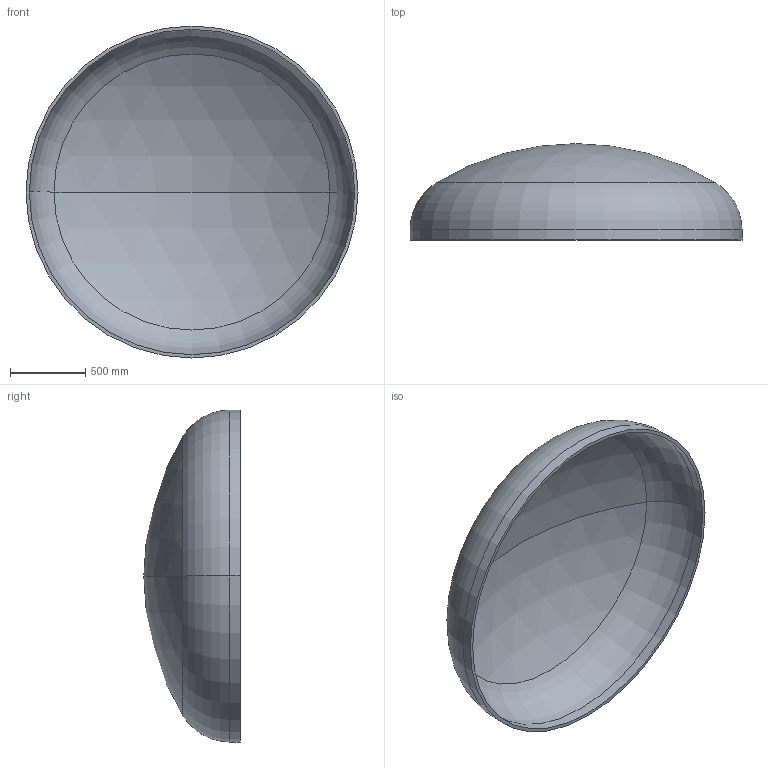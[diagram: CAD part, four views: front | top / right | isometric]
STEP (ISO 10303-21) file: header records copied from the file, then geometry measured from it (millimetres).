
FILE_DESCRIPTION (( 'STEP AP203' ), '1' );
FILE_NAME ('DIN 28013 Korbbogenform_-_Boden DIN 28013 - 2200 x 70 - I - s=22.step', '2016-07-01T14:25:26', ( '' ), ( '' ), 'SwSTEP 2.0', 'SolidWorks 2013', '' );
FILE_SCHEMA (( 'CONFIG_CONTROL_DESIGN' ));
Length unit declared in the file: millimetre
Products named in the file (1): DIN 28013 Korbbogenform_-_Boden DIN 28013 - 2200 x 70 - I - s=22
Bounding box: 2200 x 638.84 x 2200 mm (x, y, z)
Volume: 124920261.7 mm3; surface area: 11507929.5 mm2
Topology: 1 solids, 1 shells, 13 faces, 24 edges, 14 vertices
Faces by surface type: torus 4, cylinder 4, sphere 4, plane 1
Entity records: 407 total; most frequent: DIRECTION 72, CARTESIAN_POINT 52, ORIENTED_EDGE 48, AXIS2_PLACEMENT_3D 34, EDGE_CURVE 24, CIRCLE 20, VERTEX_POINT 14, EDGE_LOOP 14
